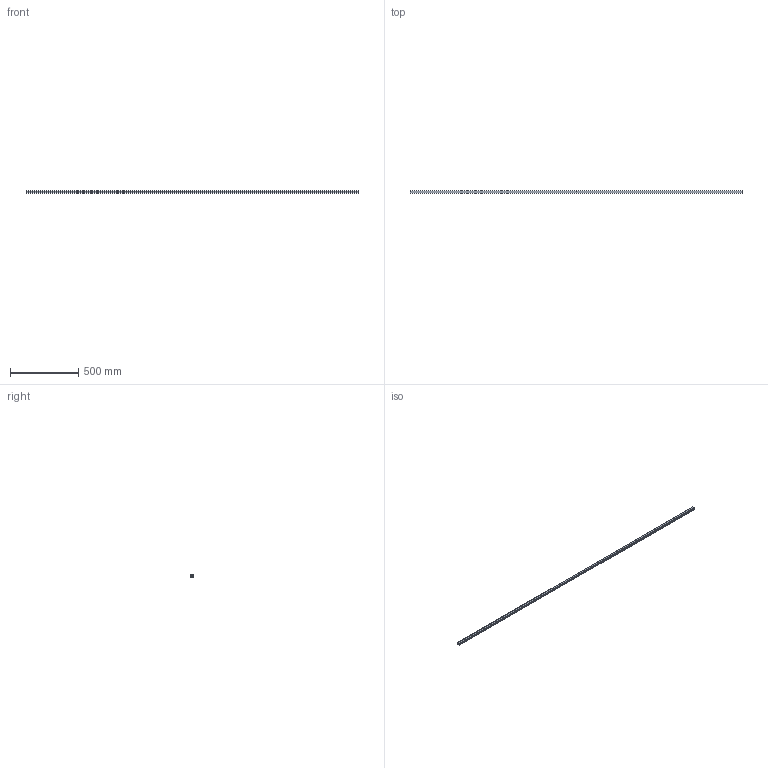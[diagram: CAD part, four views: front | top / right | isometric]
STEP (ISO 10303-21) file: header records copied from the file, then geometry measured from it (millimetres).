
FILE_DESCRIPTION((''),'2;1');
FILE_NAME('GTB13P08_ASM','2017-07-24T',('jenni.wallner'),(''),'PRO/ENGINEER BY PARAMETRIC TECHNOLOGY CORPORATION, 2012420','PRO/ENGINEER BY PARAMETRIC TECHNOLOGY CORPORATION, 2012420','');
FILE_SCHEMA(('CONFIG_CONTROL_DESIGN'));
Length unit declared in the file: inch
Products named in the file (2): GTB13P04; GTB13P08_ASM
Assembly tree (2 placements, depth 2):
  GTB13P08_ASM
    GTB13P04  x2
Bounding box: 2438.4 x 19.28 x 15 mm (x, y, z)
Volume: 307032.2 mm3; surface area: 290517.1 mm2
Topology: 2 solids, 2 shells, 68 faces, 192 edges, 128 vertices
Faces by surface type: cylinder 48, plane 20
Entity records: 1249 total; most frequent: CARTESIAN_POINT 314, ORIENTED_EDGE 192, DIRECTION 168, EDGE_CURVE 96, VERTEX_POINT 64, AXIS2_PLACEMENT_3D 60, VECTOR 48, LINE 48
